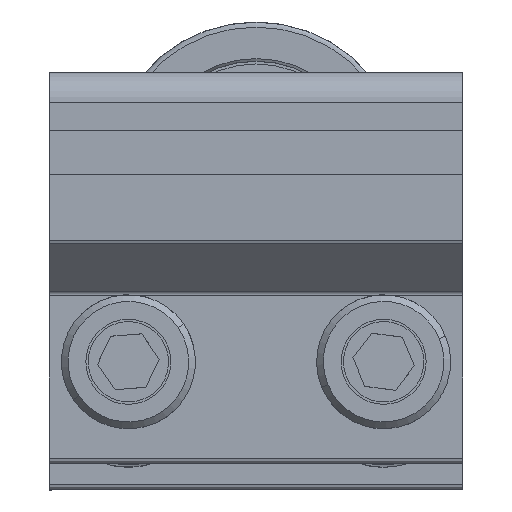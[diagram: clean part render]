
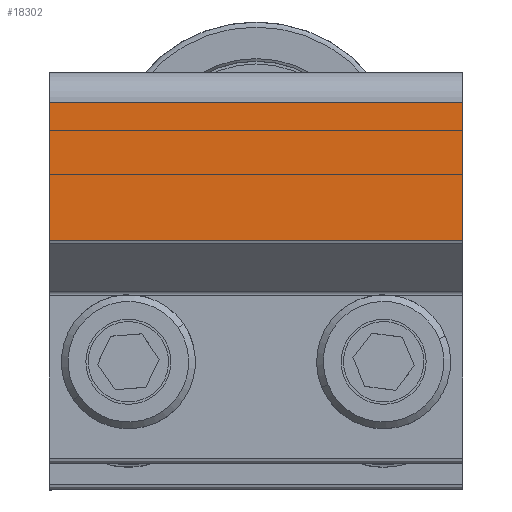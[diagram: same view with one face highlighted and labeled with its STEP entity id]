
A CAD part, top view. The second image highlights one B-rep face of the part: STEP entity #18302.
In plain terms, the highlighted planar face has unit normal (0, 0, 1) as drawn and (1, 0, 0) by its records, which use the part's own axes.
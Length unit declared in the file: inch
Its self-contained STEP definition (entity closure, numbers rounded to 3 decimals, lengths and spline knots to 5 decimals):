
#17801=DIRECTION('',(0.,-1.,0.));
#17802=VECTOR('',#17801,0.40379);
#17803=CARTESIAN_POINT('',(0.375,0.763,-0.608));
#17804=LINE('',#17803,#17802);
#17882=DIRECTION('',(0.,-1.,0.));
#17883=VECTOR('',#17882,0.40379);
#17884=CARTESIAN_POINT('',(0.375,0.763,0.608));
#17885=LINE('',#17884,#17883);
#17951=DIRECTION('',(0.,0.,1.));
#17952=VECTOR('',#17951,1.216);
#17953=CARTESIAN_POINT('',(0.375,0.35921,-0.608));
#17954=LINE('',#17953,#17952);
#18107=DIRECTION('',(0.,0.,-1.));
#18108=VECTOR('',#18107,1.216);
#18109=CARTESIAN_POINT('',(0.375,0.763,0.608));
#18110=LINE('',#18109,#18108);
#18132=CARTESIAN_POINT('',(0.375,0.35921,0.608));
#18134=VERTEX_POINT('',#18132);
#18161=CARTESIAN_POINT('',(0.375,0.763,0.608));
#18162=VERTEX_POINT('',#18161);
#18187=CARTESIAN_POINT('',(0.375,0.763,-0.608));
#18188=VERTEX_POINT('',#18187);
#18209=CARTESIAN_POINT('',(0.375,0.35921,-0.608));
#18210=VERTEX_POINT('',#18209);
#18288=CARTESIAN_POINT('',(0.375,0.763,0.608));
#18289=DIRECTION('',(-1.,0.,0.));
#18290=DIRECTION('',(0.,-1.,0.));
#18291=AXIS2_PLACEMENT_3D('',#18288,#18289,#18290);
#18292=PLANE('',#18291);
#18294=ORIENTED_EDGE('',*,*,#18293,.F.);
#18296=ORIENTED_EDGE('',*,*,#18295,.T.);
#18297=ORIENTED_EDGE('',*,*,#18244,.T.);
#18299=ORIENTED_EDGE('',*,*,#18298,.T.);
#18300=EDGE_LOOP('',(#18294,#18296,#18297,#18299));
#18301=FACE_OUTER_BOUND('',#18300,.F.);
#18244=EDGE_CURVE('',#18188,#18210,#17804,.T.);
#18293=EDGE_CURVE('',#18162,#18134,#17885,.T.);
#18295=EDGE_CURVE('',#18162,#18188,#18110,.T.);
#18298=EDGE_CURVE('',#18210,#18134,#17954,.T.);
#18302=ADVANCED_FACE('',(#18301),#18292,.F.);
